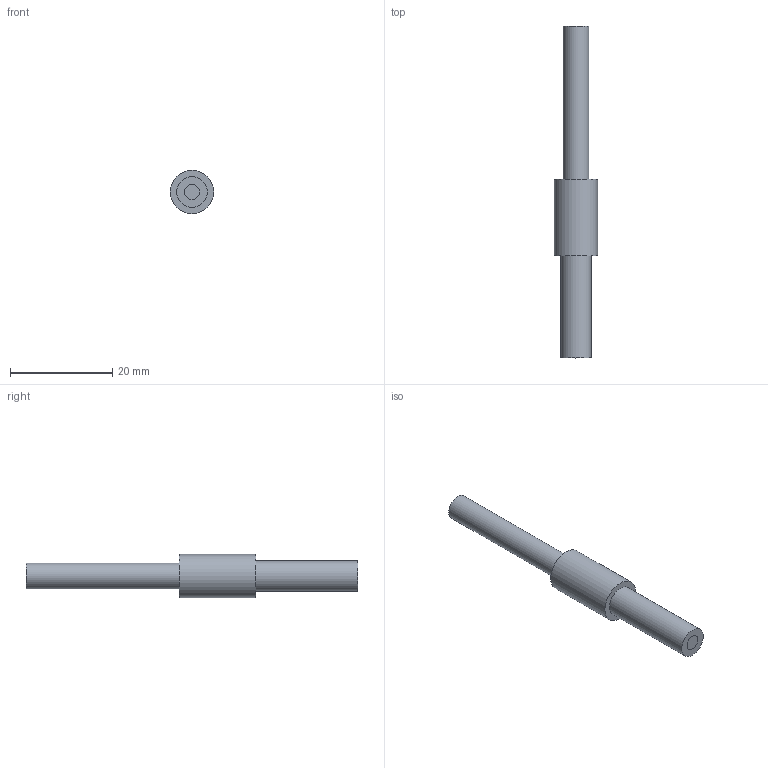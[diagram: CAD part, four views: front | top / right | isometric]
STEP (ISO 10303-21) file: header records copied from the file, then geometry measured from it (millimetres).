
FILE_DESCRIPTION(/* description */ (''),/* implementation_level */ '2;1');
FILE_NAME(/* name */ '//sv004/特品事業部/特品共通フォルダ/☆社外用データテスト/☆佐貫管理フォルダー☆/10_外観図一覧/A_ファイバー光源/A_20_58 ライトガイド/LGC1-3L1000 照射部.step',/* time_stamp */ '2022-06-16T09:54:59+09:00',/* author */ (''),/* organization */ (''),/* preprocessor_version */ 'ST-DEVELOPER v19',/* originating_system */ 'Autodesk Translation Framework v11.7.0.108',/* authorisation */ '');
FILE_SCHEMA (('AUTOMOTIVE_DESIGN { 1 0 10303 214 3 1 1 }'));
Length unit declared in the file: millimetre
Products named in the file (1): LGC1-3L1000 照射部
Bounding box: 8.5 x 65 x 8.5 mm (x, y, z)
Volume: 2005.7 mm3; surface area: 2629.9 mm2
Topology: 3 solids, 3 shells, 13 faces, 18 edges, 12 vertices
Faces by surface type: plane 7, cylinder 6
Full cylindrical faces by diameter (mm): 3 x3, 5 x1, 6 x1, 8.5 x1
Entity records: 323 total; most frequent: DIRECTION 58, CARTESIAN_POINT 44, ORIENTED_EDGE 36, AXIS2_PLACEMENT_3D 26, EDGE_LOOP 18, EDGE_CURVE 18, FACE_OUTER_BOUND 13, ADVANCED_FACE 13
